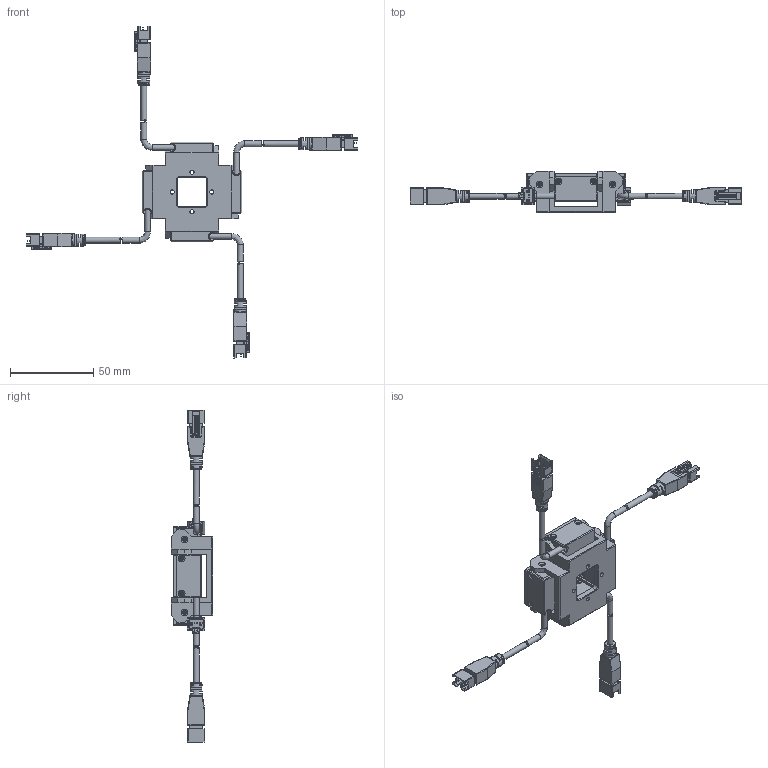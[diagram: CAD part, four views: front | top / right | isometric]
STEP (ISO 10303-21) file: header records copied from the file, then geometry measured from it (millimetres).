
FILE_DESCRIPTION (( 'STEP AP214' ), '1' );
FILE_NAME ('CST-ROS60-QY-蚾饜极.STEP', '2020-11-28T02:51:18', ( '' ), ( '' ), 'SwSTEP 2.0', 'SolidWorks 2018', '' );
FILE_SCHEMA (( 'AUTOMOTIVE_DESIGN' ));
Length unit declared in the file: millimetre
Products named in the file (1): CST-ROS60-QY-蚾饜极
Bounding box: 199.96 x 25 x 199.96 mm (x, y, z)
Surface area: 37111.8 mm2 (no closed solid volume)
Topology: 0 solids, 25 shells, 1294 faces, 3452 edges, 2152 vertices
Faces by surface type: plane 754, cylinder 340, cone 104, bspline 72, torus 24
Full cylindrical faces by diameter (mm): 1.6 x48, 2.2 x8, 2.4 x32, 2.5 x4, 3.5 x12
Entity records: 54364 total; most frequent: CARTESIAN_POINT 9471, DIRECTION 6182, ORIENTED_EDGE 6068, EDGE_CURVE 3128, LINE 2152, VECTOR 2152, VERTEX_POINT 2060, AXIS2_PLACEMENT_3D 2015
